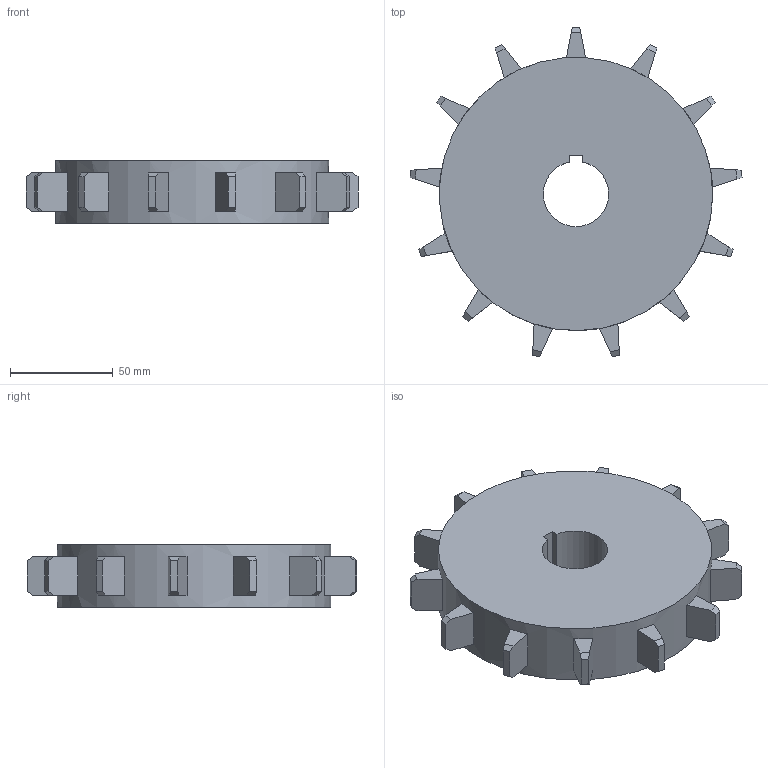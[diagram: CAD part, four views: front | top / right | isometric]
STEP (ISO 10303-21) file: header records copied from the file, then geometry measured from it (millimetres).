
FILE_DESCRIPTION((''),'2;1');
FILE_NAME('S2800_SPROCKET_62_RND','2020-12-03T08:30:42',('rklein'),('INTRALOX'),'CREO PARAMETRIC BY PTC INC, 2019471','CREO PARAMETRIC BY PTC INC, 2019471','');
FILE_SCHEMA(('CONFIG_CONTROL_DESIGN'));
Length unit declared in the file: inch
Products named in the file (1): S2800_SPROCKET_62_RND
Bounding box: 161.18 x 160.01 x 30.48 mm (x, y, z)
Volume: 419555.5 mm3; surface area: 50103.6 mm2
Topology: 1 solids, 1 shells, 99 faces, 252 edges, 168 vertices
Faces by surface type: plane 96, cylinder 3
Entity records: 3002 total; most frequent: CARTESIAN_POINT 519, ORIENTED_EDGE 504, DIRECTION 482, EDGE_CURVE 252, VECTOR 220, LINE 220, VERTEX_POINT 168, AXIS2_PLACEMENT_3D 131
